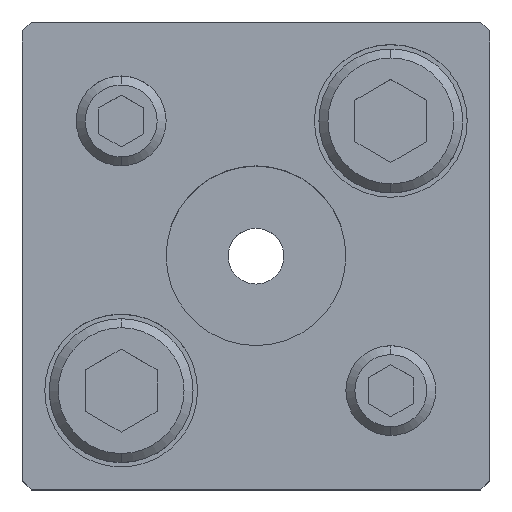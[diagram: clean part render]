
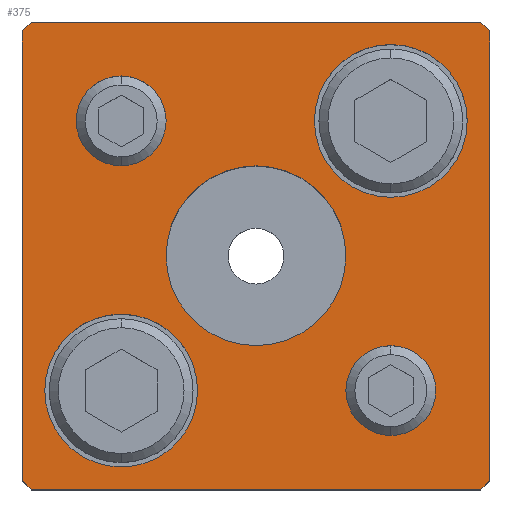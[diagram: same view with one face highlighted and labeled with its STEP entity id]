
A CAD part, top view. The second image highlights one B-rep face of the part: STEP entity #375.
In plain terms, the highlighted planar face has unit normal (0, 0, 1).
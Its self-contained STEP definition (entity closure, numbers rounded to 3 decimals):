
#139=PLANE('',#2873);
#201=FACE_BOUND('',#707,.T.);
#202=FACE_BOUND('',#708,.T.);
#203=FACE_BOUND('',#709,.T.);
#204=FACE_BOUND('',#710,.T.);
#205=FACE_BOUND('',#711,.T.);
#206=FACE_BOUND('',#712,.T.);
#375=ADVANCED_FACE('',(#201,#202,#203,#204,#205,#206),#139,.T.);
#707=EDGE_LOOP('',(#1261,#1262,#1263,#1264,#1265,#1266,#1267,#1268));
#708=EDGE_LOOP('',(#1269,#1270));
#709=EDGE_LOOP('',(#1271,#1272));
#710=EDGE_LOOP('',(#1273,#1274));
#711=EDGE_LOOP('',(#1275,#1276));
#712=EDGE_LOOP('',(#1277,#1278));
#872=CIRCLE('',#2831,5.);
#874=CIRCLE('',#2834,5.);
#876=CIRCLE('',#2837,5.);
#878=CIRCLE('',#2840,5.);
#896=CIRCLE('',#2867,8.5);
#897=CIRCLE('',#2868,8.5);
#898=CIRCLE('',#2869,8.5);
#899=CIRCLE('',#2870,8.5);
#900=CIRCLE('',#2871,10.);
#901=CIRCLE('',#2872,10.);
#1261=ORIENTED_EDGE('',*,*,#2078,.T.);
#1262=ORIENTED_EDGE('',*,*,#2079,.T.);
#1263=ORIENTED_EDGE('',*,*,#2080,.T.);
#1264=ORIENTED_EDGE('',*,*,#2081,.T.);
#1265=ORIENTED_EDGE('',*,*,#2082,.T.);
#1266=ORIENTED_EDGE('',*,*,#2083,.T.);
#1267=ORIENTED_EDGE('',*,*,#2084,.T.);
#1268=ORIENTED_EDGE('',*,*,#2085,.T.);
#1269=ORIENTED_EDGE('',*,*,#2086,.F.);
#1270=ORIENTED_EDGE('',*,*,#2087,.F.);
#1271=ORIENTED_EDGE('',*,*,#2088,.F.);
#1272=ORIENTED_EDGE('',*,*,#2089,.F.);
#1273=ORIENTED_EDGE('',*,*,#2052,.F.);
#1274=ORIENTED_EDGE('',*,*,#2048,.F.);
#1275=ORIENTED_EDGE('',*,*,#2046,.F.);
#1276=ORIENTED_EDGE('',*,*,#2042,.F.);
#1277=ORIENTED_EDGE('',*,*,#2090,.T.);
#1278=ORIENTED_EDGE('',*,*,#2091,.T.);
#1761=VERTEX_POINT('',#4141);
#1762=VERTEX_POINT('',#4142);
#1765=VERTEX_POINT('',#4153);
#1766=VERTEX_POINT('',#4154);
#1785=VERTEX_POINT('',#4213);
#1786=VERTEX_POINT('',#4214);
#1787=VERTEX_POINT('',#4216);
#1788=VERTEX_POINT('',#4218);
#1789=VERTEX_POINT('',#4220);
#1790=VERTEX_POINT('',#4222);
#1791=VERTEX_POINT('',#4224);
#1792=VERTEX_POINT('',#4226);
#1793=VERTEX_POINT('',#4229);
#1794=VERTEX_POINT('',#4230);
#1795=VERTEX_POINT('',#4233);
#1796=VERTEX_POINT('',#4234);
#1797=VERTEX_POINT('',#4237);
#1798=VERTEX_POINT('',#4238);
#2042=EDGE_CURVE('',#1761,#1762,#872,.T.);
#2046=EDGE_CURVE('',#1762,#1761,#874,.T.);
#2048=EDGE_CURVE('',#1765,#1766,#876,.T.);
#2052=EDGE_CURVE('',#1766,#1765,#878,.T.);
#2078=EDGE_CURVE('',#1785,#1786,#2360,.T.);
#2079=EDGE_CURVE('',#1786,#1787,#2361,.T.);
#2080=EDGE_CURVE('',#1787,#1788,#2362,.T.);
#2081=EDGE_CURVE('',#1788,#1789,#2363,.T.);
#2082=EDGE_CURVE('',#1789,#1790,#2364,.T.);
#2083=EDGE_CURVE('',#1790,#1791,#2365,.T.);
#2084=EDGE_CURVE('',#1791,#1792,#2366,.T.);
#2085=EDGE_CURVE('',#1792,#1785,#2367,.T.);
#2086=EDGE_CURVE('',#1793,#1794,#896,.T.);
#2087=EDGE_CURVE('',#1794,#1793,#897,.T.);
#2088=EDGE_CURVE('',#1795,#1796,#898,.T.);
#2089=EDGE_CURVE('',#1796,#1795,#899,.T.);
#2090=EDGE_CURVE('',#1797,#1798,#900,.T.);
#2091=EDGE_CURVE('',#1798,#1797,#901,.T.);
#2360=LINE('',#4212,#2580);
#2361=LINE('',#4215,#2581);
#2362=LINE('',#4217,#2582);
#2363=LINE('',#4219,#2583);
#2364=LINE('',#4221,#2584);
#2365=LINE('',#4223,#2585);
#2366=LINE('',#4225,#2586);
#2367=LINE('',#4227,#2587);
#2580=VECTOR('',#3399,1.);
#2581=VECTOR('',#3400,1.);
#2582=VECTOR('',#3401,1.);
#2583=VECTOR('',#3402,1.);
#2584=VECTOR('',#3403,1.);
#2585=VECTOR('',#3404,1.);
#2586=VECTOR('',#3405,1.);
#2587=VECTOR('',#3406,1.);
#2831=AXIS2_PLACEMENT_3D('',#4140,#3315,#3316);
#2834=AXIS2_PLACEMENT_3D('',#4149,#3323,#3324);
#2837=AXIS2_PLACEMENT_3D('',#4152,#3329,#3330);
#2840=AXIS2_PLACEMENT_3D('',#4161,#3337,#3338);
#2867=AXIS2_PLACEMENT_3D('',#4228,#3407,#3408);
#2868=AXIS2_PLACEMENT_3D('',#4231,#3409,#3410);
#2869=AXIS2_PLACEMENT_3D('',#4232,#3411,#3412);
#2870=AXIS2_PLACEMENT_3D('',#4235,#3413,#3414);
#2871=AXIS2_PLACEMENT_3D('',#4236,#3415,#3416);
#2872=AXIS2_PLACEMENT_3D('',#4239,#3417,#3418);
#2873=AXIS2_PLACEMENT_3D('',#4240,#3419,#3420);
#3315=DIRECTION('',(0.,0.,1.));
#3316=DIRECTION('',(1.,0.,0.));
#3323=DIRECTION('',(0.,0.,1.));
#3324=DIRECTION('',(-1.,0.,0.));
#3329=DIRECTION('',(0.,0.,1.));
#3330=DIRECTION('',(1.,0.,0.));
#3337=DIRECTION('',(0.,0.,1.));
#3338=DIRECTION('',(-1.,0.,0.));
#3399=DIRECTION('',(0.,1.,0.));
#3400=DIRECTION('',(-0.707,0.707,0.));
#3401=DIRECTION('',(-1.,0.,0.));
#3402=DIRECTION('',(-0.707,-0.707,0.));
#3403=DIRECTION('',(0.,-1.,0.));
#3404=DIRECTION('',(0.707,-0.707,0.));
#3405=DIRECTION('',(1.,0.,0.));
#3406=DIRECTION('',(0.707,0.707,0.));
#3407=DIRECTION('',(0.,0.,1.));
#3408=DIRECTION('',(1.,0.,0.));
#3409=DIRECTION('',(0.,0.,1.));
#3410=DIRECTION('',(-1.,0.,0.));
#3411=DIRECTION('',(0.,0.,1.));
#3412=DIRECTION('',(1.,0.,0.));
#3413=DIRECTION('',(0.,0.,1.));
#3414=DIRECTION('',(-1.,0.,0.));
#3415=DIRECTION('',(0.,0.,-1.));
#3416=DIRECTION('',(-1.,0.,0.));
#3417=DIRECTION('',(0.,0.,-1.));
#3418=DIRECTION('',(1.,0.,0.));
#3419=DIRECTION('',(0.,0.,1.));
#3420=DIRECTION('',(0.,-1.,0.));
#4140=CARTESIAN_POINT('',(15.,-15.,35.));
#4141=CARTESIAN_POINT('',(15.,-10.,35.));
#4142=CARTESIAN_POINT('',(15.,-20.,35.));
#4149=CARTESIAN_POINT('',(15.,-15.,35.));
#4152=CARTESIAN_POINT('',(-15.,15.,35.));
#4153=CARTESIAN_POINT('',(-15.,20.,35.));
#4154=CARTESIAN_POINT('',(-15.,10.,35.));
#4161=CARTESIAN_POINT('',(-15.,15.,35.));
#4212=CARTESIAN_POINT('',(26.,25.,35.));
#4213=CARTESIAN_POINT('',(26.,-25.,35.));
#4214=CARTESIAN_POINT('',(26.,25.,35.));
#4215=CARTESIAN_POINT('',(25.,26.,35.));
#4216=CARTESIAN_POINT('',(25.,26.,35.));
#4217=CARTESIAN_POINT('',(-25.,26.,35.));
#4218=CARTESIAN_POINT('',(-25.,26.,35.));
#4219=CARTESIAN_POINT('',(-26.,25.,35.));
#4220=CARTESIAN_POINT('',(-26.,25.,35.));
#4221=CARTESIAN_POINT('',(-26.,-25.,35.));
#4222=CARTESIAN_POINT('',(-26.,-25.,35.));
#4223=CARTESIAN_POINT('',(-25.,-26.,35.));
#4224=CARTESIAN_POINT('',(-25.,-26.,35.));
#4225=CARTESIAN_POINT('',(25.,-26.,35.));
#4226=CARTESIAN_POINT('',(25.,-26.,35.));
#4227=CARTESIAN_POINT('',(26.,-25.,35.));
#4228=CARTESIAN_POINT('',(-15.,-15.,35.));
#4229=CARTESIAN_POINT('',(-15.,-6.5,35.));
#4230=CARTESIAN_POINT('',(-15.,-23.5,35.));
#4231=CARTESIAN_POINT('',(-15.,-15.,35.));
#4232=CARTESIAN_POINT('',(15.,15.,35.));
#4233=CARTESIAN_POINT('',(15.,23.5,35.));
#4234=CARTESIAN_POINT('',(15.,6.5,35.));
#4235=CARTESIAN_POINT('',(15.,15.,35.));
#4236=CARTESIAN_POINT('',(0.,0.,35.));
#4237=CARTESIAN_POINT('',(0.,10.,35.));
#4238=CARTESIAN_POINT('',(0.,-10.,35.));
#4239=CARTESIAN_POINT('',(0.,0.,35.));
#4240=CARTESIAN_POINT('',(26.,-25.,35.));
